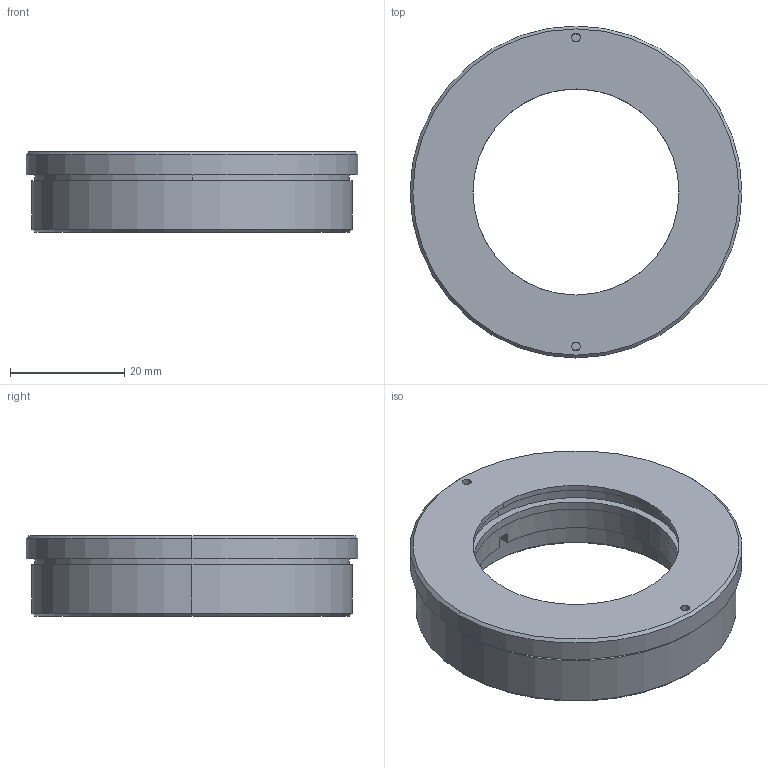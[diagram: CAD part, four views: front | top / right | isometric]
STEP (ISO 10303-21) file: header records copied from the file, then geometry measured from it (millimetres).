
FILE_DESCRIPTION (( 'STEP AP203' ), '1' );
FILE_NAME ('7MA2381变径圈.STEP', '2019-10-24T07:33:20', ( '' ), ( '' ), 'SwSTEP 2.0', 'SolidWorks 2014', '' );
FILE_SCHEMA (( 'CONFIG_CONTROL_DESIGN' ));
Length unit declared in the file: millimetre
Products named in the file (1): 7MA2381变径圈
Bounding box: 58 x 58 x 14 mm (x, y, z)
Surface area: 8348.1 mm2 (no closed solid volume)
Topology: 0 solids, 3 shells, 40 faces, 98 edges, 64 vertices
Faces by surface type: cylinder 20, plane 14, cone 6
Entity records: 1271 total; most frequent: DIRECTION 236, CARTESIAN_POINT 203, ORIENTED_EDGE 174, EDGE_CURVE 98, AXIS2_PLACEMENT_3D 97, VERTEX_POINT 64, CIRCLE 56, EDGE_LOOP 48
